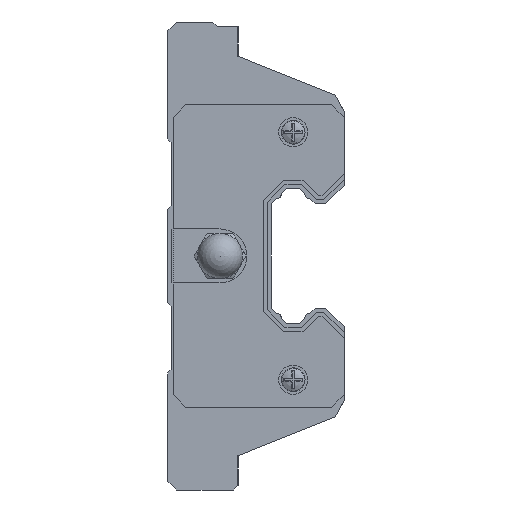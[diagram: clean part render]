
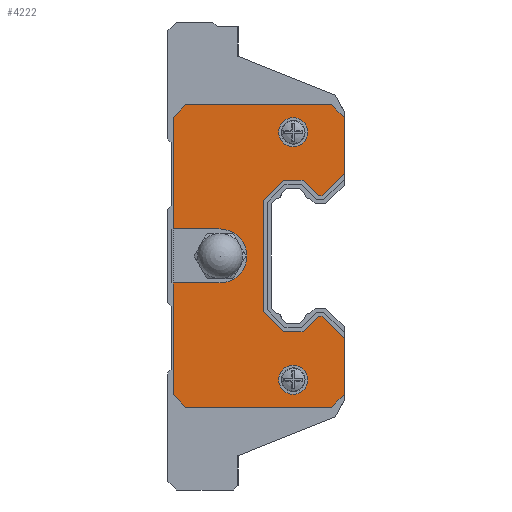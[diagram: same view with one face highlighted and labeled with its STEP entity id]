
A CAD part, left-side view. The second image highlights one B-rep face of the part: STEP entity #4222.
In plain terms, the highlighted planar face has unit normal (-1, 0, 0) as drawn and (1, 0, 0) by its records, which use the part's own axes.
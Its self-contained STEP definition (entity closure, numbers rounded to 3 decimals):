
#4204 = VERTEX_POINT('',#4205);
#4205 = CARTESIAN_POINT('',(2.5,10.07,15.365));
#4210 = EDGE_CURVE('',#4204,#4204,#4211,.T.);
#4211 = CIRCLE('',#4212,1.615);
#4212 = AXIS2_PLACEMENT_3D('',#4213,#4214,#4215);
#4213 = CARTESIAN_POINT('',(2.5,10.07,13.75));
#4214 = DIRECTION('',(-1.,0.,0.));
#4215 = DIRECTION('',(0.,0.,1.));
#4222 = ADVANCED_FACE('',(#4223,#4418,#4421),#4432,.T.);
#4223 = FACE_BOUND('',#4224,.T.);
#4224 = EDGE_LOOP('',(#4225,#4235,#4243,#4251,#4259,#4267,#4275,#4283,
    #4291,#4299,#4307,#4315,#4323,#4331,#4339,#4347,#4355,#4363,#4372,
    #4380,#4388,#4396,#4404,#4412));
#4225 = ORIENTED_EDGE('',*,*,#4226,.F.);
#4226 = EDGE_CURVE('',#4227,#4229,#4231,.T.);
#4227 = VERTEX_POINT('',#4228);
#4228 = CARTESIAN_POINT('',(2.5,6.849,6.699));
#4229 = VERTEX_POINT('',#4230);
#4230 = CARTESIAN_POINT('',(2.5,4.4,9.148));
#4231 = LINE('',#4232,#4233);
#4232 = CARTESIAN_POINT('',(2.5,6.849,6.699));
#4233 = VECTOR('',#4234,1.);
#4234 = DIRECTION('',(0.,-0.707,0.707));
#4235 = ORIENTED_EDGE('',*,*,#4236,.F.);
#4236 = EDGE_CURVE('',#4237,#4227,#4239,.T.);
#4237 = VERTEX_POINT('',#4238);
#4238 = CARTESIAN_POINT('',(2.5,7.267,6.699));
#4239 = LINE('',#4240,#4241);
#4240 = CARTESIAN_POINT('',(2.5,7.267,6.699));
#4241 = VECTOR('',#4242,1.);
#4242 = DIRECTION('',(0.,-1.,0.));
#4243 = ORIENTED_EDGE('',*,*,#4244,.F.);
#4244 = EDGE_CURVE('',#4245,#4237,#4247,.T.);
#4245 = VERTEX_POINT('',#4246);
#4246 = CARTESIAN_POINT('',(2.5,8.968,8.4));
#4247 = LINE('',#4248,#4249);
#4248 = CARTESIAN_POINT('',(2.5,8.968,8.4));
#4249 = VECTOR('',#4250,1.);
#4250 = DIRECTION('',(0.,-0.707,-0.707));
#4251 = ORIENTED_EDGE('',*,*,#4252,.F.);
#4252 = EDGE_CURVE('',#4253,#4245,#4255,.T.);
#4253 = VERTEX_POINT('',#4254);
#4254 = CARTESIAN_POINT('',(2.5,11.172,8.4));
#4255 = LINE('',#4256,#4257);
#4256 = CARTESIAN_POINT('',(2.5,11.172,8.4));
#4257 = VECTOR('',#4258,1.);
#4258 = DIRECTION('',(0.,-1.,0.));
#4259 = ORIENTED_EDGE('',*,*,#4260,.F.);
#4260 = EDGE_CURVE('',#4261,#4253,#4263,.T.);
#4261 = VERTEX_POINT('',#4262);
#4262 = CARTESIAN_POINT('',(2.5,13.4,6.172));
#4263 = LINE('',#4264,#4265);
#4264 = CARTESIAN_POINT('',(2.5,13.4,6.172));
#4265 = VECTOR('',#4266,1.);
#4266 = DIRECTION('',(0.,-0.707,0.707));
#4267 = ORIENTED_EDGE('',*,*,#4268,.F.);
#4268 = EDGE_CURVE('',#4269,#4261,#4271,.T.);
#4269 = VERTEX_POINT('',#4270);
#4270 = CARTESIAN_POINT('',(2.5,13.4,-6.172));
#4271 = LINE('',#4272,#4273);
#4272 = CARTESIAN_POINT('',(2.5,13.4,-6.172));
#4273 = VECTOR('',#4274,1.);
#4274 = DIRECTION('',(0.,0.,1.));
#4275 = ORIENTED_EDGE('',*,*,#4276,.F.);
#4276 = EDGE_CURVE('',#4277,#4269,#4279,.T.);
#4277 = VERTEX_POINT('',#4278);
#4278 = CARTESIAN_POINT('',(2.5,11.172,-8.4));
#4279 = LINE('',#4280,#4281);
#4280 = CARTESIAN_POINT('',(2.5,11.172,-8.4));
#4281 = VECTOR('',#4282,1.);
#4282 = DIRECTION('',(0.,0.707,0.707));
#4283 = ORIENTED_EDGE('',*,*,#4284,.F.);
#4284 = EDGE_CURVE('',#4285,#4277,#4287,.T.);
#4285 = VERTEX_POINT('',#4286);
#4286 = CARTESIAN_POINT('',(2.5,8.968,-8.4));
#4287 = LINE('',#4288,#4289);
#4288 = CARTESIAN_POINT('',(2.5,8.968,-8.4));
#4289 = VECTOR('',#4290,1.);
#4290 = DIRECTION('',(0.,1.,0.));
#4291 = ORIENTED_EDGE('',*,*,#4292,.F.);
#4292 = EDGE_CURVE('',#4293,#4285,#4295,.T.);
#4293 = VERTEX_POINT('',#4294);
#4294 = CARTESIAN_POINT('',(2.5,7.267,-6.699));
#4295 = LINE('',#4296,#4297);
#4296 = CARTESIAN_POINT('',(2.5,7.267,-6.699));
#4297 = VECTOR('',#4298,1.);
#4298 = DIRECTION('',(0.,0.707,-0.707));
#4299 = ORIENTED_EDGE('',*,*,#4300,.F.);
#4300 = EDGE_CURVE('',#4301,#4293,#4303,.T.);
#4301 = VERTEX_POINT('',#4302);
#4302 = CARTESIAN_POINT('',(2.5,6.849,-6.699));
#4303 = LINE('',#4304,#4305);
#4304 = CARTESIAN_POINT('',(2.5,6.849,-6.699));
#4305 = VECTOR('',#4306,1.);
#4306 = DIRECTION('',(0.,1.,0.));
#4307 = ORIENTED_EDGE('',*,*,#4308,.F.);
#4308 = EDGE_CURVE('',#4309,#4301,#4311,.T.);
#4309 = VERTEX_POINT('',#4310);
#4310 = CARTESIAN_POINT('',(2.5,4.4,-9.148));
#4311 = LINE('',#4312,#4313);
#4312 = CARTESIAN_POINT('',(2.5,4.4,-9.148));
#4313 = VECTOR('',#4314,1.);
#4314 = DIRECTION('',(0.,0.707,0.707));
#4315 = ORIENTED_EDGE('',*,*,#4316,.T.);
#4316 = EDGE_CURVE('',#4309,#4317,#4319,.T.);
#4317 = VERTEX_POINT('',#4318);
#4318 = CARTESIAN_POINT('',(2.5,4.4,-15.412));
#4319 = LINE('',#4320,#4321);
#4320 = CARTESIAN_POINT('',(2.5,4.4,15.412));
#4321 = VECTOR('',#4322,1.);
#4322 = DIRECTION('',(0.,0.,-1.));
#4323 = ORIENTED_EDGE('',*,*,#4324,.T.);
#4324 = EDGE_CURVE('',#4317,#4325,#4327,.T.);
#4325 = VERTEX_POINT('',#4326);
#4326 = CARTESIAN_POINT('',(2.5,5.788,-16.8));
#4327 = LINE('',#4328,#4329);
#4328 = CARTESIAN_POINT('',(2.5,4.4,-15.412));
#4329 = VECTOR('',#4330,1.);
#4330 = DIRECTION('',(0.,0.707,-0.707));
#4331 = ORIENTED_EDGE('',*,*,#4332,.T.);
#4332 = EDGE_CURVE('',#4325,#4333,#4335,.T.);
#4333 = VERTEX_POINT('',#4334);
#4334 = CARTESIAN_POINT('',(2.5,22.012,-16.8));
#4335 = LINE('',#4336,#4337);
#4336 = CARTESIAN_POINT('',(2.5,5.788,-16.8));
#4337 = VECTOR('',#4338,1.);
#4338 = DIRECTION('',(0.,1.,0.));
#4339 = ORIENTED_EDGE('',*,*,#4340,.T.);
#4340 = EDGE_CURVE('',#4333,#4341,#4343,.T.);
#4341 = VERTEX_POINT('',#4342);
#4342 = CARTESIAN_POINT('',(2.5,23.4,-15.412));
#4343 = LINE('',#4344,#4345);
#4344 = CARTESIAN_POINT('',(2.5,22.012,-16.8));
#4345 = VECTOR('',#4346,1.);
#4346 = DIRECTION('',(0.,0.707,0.707));
#4347 = ORIENTED_EDGE('',*,*,#4348,.T.);
#4348 = EDGE_CURVE('',#4341,#4349,#4351,.T.);
#4349 = VERTEX_POINT('',#4350);
#4350 = CARTESIAN_POINT('',(2.5,23.4,-3.));
#4351 = LINE('',#4352,#4353);
#4352 = CARTESIAN_POINT('',(2.5,23.4,-15.412));
#4353 = VECTOR('',#4354,1.);
#4354 = DIRECTION('',(0.,0.,1.));
#4355 = ORIENTED_EDGE('',*,*,#4356,.F.);
#4356 = EDGE_CURVE('',#4357,#4349,#4359,.T.);
#4357 = VERTEX_POINT('',#4358);
#4358 = CARTESIAN_POINT('',(2.5,18.2,-3.));
#4359 = LINE('',#4360,#4361);
#4360 = CARTESIAN_POINT('',(2.5,18.2,-3.));
#4361 = VECTOR('',#4362,1.);
#4362 = DIRECTION('',(0.,1.,0.));
#4363 = ORIENTED_EDGE('',*,*,#4364,.F.);
#4364 = EDGE_CURVE('',#4365,#4357,#4367,.T.);
#4365 = VERTEX_POINT('',#4366);
#4366 = CARTESIAN_POINT('',(2.5,18.2,3.));
#4367 = CIRCLE('',#4368,3.);
#4368 = AXIS2_PLACEMENT_3D('',#4369,#4370,#4371);
#4369 = CARTESIAN_POINT('',(2.5,18.2,0.));
#4370 = DIRECTION('',(1.,0.,0.));
#4371 = DIRECTION('',(0.,0.,-1.));
#4372 = ORIENTED_EDGE('',*,*,#4373,.F.);
#4373 = EDGE_CURVE('',#4374,#4365,#4376,.T.);
#4374 = VERTEX_POINT('',#4375);
#4375 = CARTESIAN_POINT('',(2.5,23.4,3.));
#4376 = LINE('',#4377,#4378);
#4377 = CARTESIAN_POINT('',(2.5,23.4,3.));
#4378 = VECTOR('',#4379,1.);
#4379 = DIRECTION('',(0.,-1.,0.));
#4380 = ORIENTED_EDGE('',*,*,#4381,.T.);
#4381 = EDGE_CURVE('',#4374,#4382,#4384,.T.);
#4382 = VERTEX_POINT('',#4383);
#4383 = CARTESIAN_POINT('',(2.5,23.4,15.412));
#4384 = LINE('',#4385,#4386);
#4385 = CARTESIAN_POINT('',(2.5,23.4,-15.412));
#4386 = VECTOR('',#4387,1.);
#4387 = DIRECTION('',(0.,0.,1.));
#4388 = ORIENTED_EDGE('',*,*,#4389,.T.);
#4389 = EDGE_CURVE('',#4382,#4390,#4392,.T.);
#4390 = VERTEX_POINT('',#4391);
#4391 = CARTESIAN_POINT('',(2.5,22.012,16.8));
#4392 = LINE('',#4393,#4394);
#4393 = CARTESIAN_POINT('',(2.5,23.4,15.412));
#4394 = VECTOR('',#4395,1.);
#4395 = DIRECTION('',(0.,-0.707,0.707));
#4396 = ORIENTED_EDGE('',*,*,#4397,.T.);
#4397 = EDGE_CURVE('',#4390,#4398,#4400,.T.);
#4398 = VERTEX_POINT('',#4399);
#4399 = CARTESIAN_POINT('',(2.5,5.788,16.8));
#4400 = LINE('',#4401,#4402);
#4401 = CARTESIAN_POINT('',(2.5,22.012,16.8));
#4402 = VECTOR('',#4403,1.);
#4403 = DIRECTION('',(0.,-1.,0.));
#4404 = ORIENTED_EDGE('',*,*,#4405,.T.);
#4405 = EDGE_CURVE('',#4398,#4406,#4408,.T.);
#4406 = VERTEX_POINT('',#4407);
#4407 = CARTESIAN_POINT('',(2.5,4.4,15.412));
#4408 = LINE('',#4409,#4410);
#4409 = CARTESIAN_POINT('',(2.5,5.788,16.8));
#4410 = VECTOR('',#4411,1.);
#4411 = DIRECTION('',(0.,-0.707,-0.707));
#4412 = ORIENTED_EDGE('',*,*,#4413,.T.);
#4413 = EDGE_CURVE('',#4406,#4229,#4414,.T.);
#4414 = LINE('',#4415,#4416);
#4415 = CARTESIAN_POINT('',(2.5,4.4,15.412));
#4416 = VECTOR('',#4417,1.);
#4417 = DIRECTION('',(0.,0.,-1.));
#4418 = FACE_BOUND('',#4419,.T.);
#4419 = EDGE_LOOP('',(#4420));
#4420 = ORIENTED_EDGE('',*,*,#4210,.T.);
#4421 = FACE_BOUND('',#4422,.T.);
#4422 = EDGE_LOOP('',(#4423));
#4423 = ORIENTED_EDGE('',*,*,#4424,.T.);
#4424 = EDGE_CURVE('',#4425,#4425,#4427,.T.);
#4425 = VERTEX_POINT('',#4426);
#4426 = CARTESIAN_POINT('',(2.5,10.07,-12.135));
#4427 = CIRCLE('',#4428,1.615);
#4428 = AXIS2_PLACEMENT_3D('',#4429,#4430,#4431);
#4429 = CARTESIAN_POINT('',(2.5,10.07,-13.75));
#4430 = DIRECTION('',(-1.,0.,0.));
#4431 = DIRECTION('',(0.,0.,1.));
#4432 = PLANE('',#4433);
#4433 = AXIS2_PLACEMENT_3D('',#4434,#4435,#4436);
#4434 = CARTESIAN_POINT('',(2.5,0.,0.));
#4435 = DIRECTION('',(1.,0.,0.));
#4436 = DIRECTION('',(0.,0.,1.));
